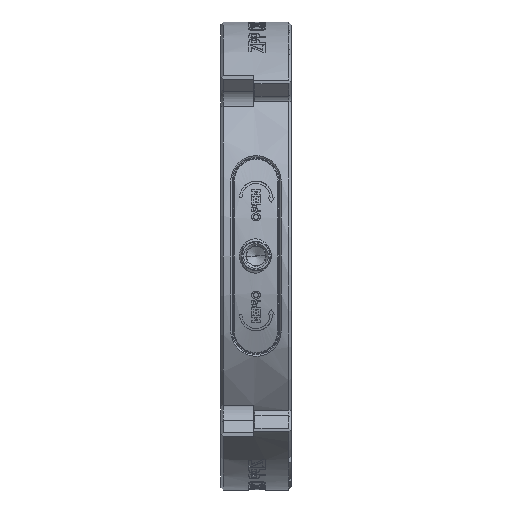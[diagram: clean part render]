
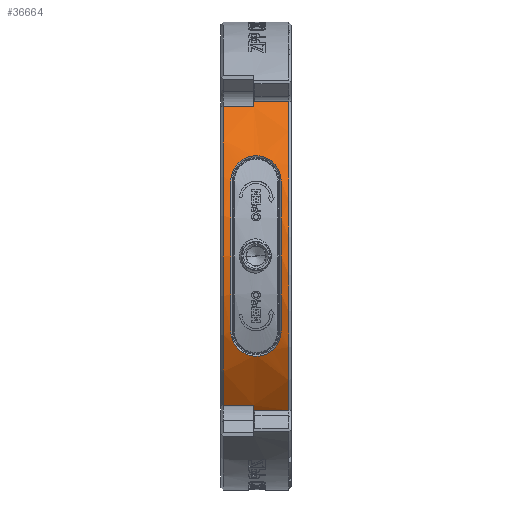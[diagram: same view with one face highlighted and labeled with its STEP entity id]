
A CAD part, left-side view. The second image highlights one B-rep face of the part: STEP entity #36664.
In plain terms, the highlighted cylindrical face has radius 100 mm (diameter 200 mm), a partial arc.
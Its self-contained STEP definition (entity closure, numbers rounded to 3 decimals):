
#606=CARTESIAN_POINT('',(-77.008,29.,-63.795));
#632=CARTESIAN_POINT('',(-77.008,29.,63.795));
#634=CARTESIAN_POINT('',(0.,29.,0.));
#635=DIRECTION('',(0.,-1.,0.));
#636=DIRECTION('',(-0.77,0.,0.638));
#637=AXIS2_PLACEMENT_3D('',#634,#635,#636);
#678=CARTESIAN_POINT('',(0.,16.,0.));
#679=DIRECTION('',(0.,-1.,0.));
#680=DIRECTION('',(-0.77,0.,-0.638));
#681=AXIS2_PLACEMENT_3D('',#678,#679,#680);
#3969=CARTESIAN_POINT('',(-75.134,1.,
-65.992));
#3971=CARTESIAN_POINT('',(0.,1.,0.));
#3972=DIRECTION('',(0.,1.,0.));
#3973=DIRECTION('',(-0.751,0.,-0.66));
#3974=AXIS2_PLACEMENT_3D('',#3971,#3972,#3973);
#4010=DIRECTION('',(0.,1.,0.));
#4011=VECTOR('',#4010,13.);
#4012=CARTESIAN_POINT('',(-77.008,16.,
-63.795));
#4013=LINE('',#4012,#4011);
#4014=DIRECTION('',(0.,-1.,0.));
#4015=VECTOR('',#4014,13.);
#4016=CARTESIAN_POINT('',(-77.008,29.,63.795));
#4017=LINE('',#4016,#4015);
#4018=DIRECTION('',(0.,-1.,0.));
#4019=VECTOR('',#4018,15.);
#4020=CARTESIAN_POINT('',(-75.134,16.,65.992));
#4021=LINE('',#4020,#4019);
#4022=DIRECTION('',(0.,1.,0.));
#4023=VECTOR('',#4022,15.);
#4024=CARTESIAN_POINT('',(-75.134,1.,
-65.992));
#4025=LINE('',#4024,#4023);
#4026=CARTESIAN_POINT('',(-94.729,4.251,32.037));
#4027=CARTESIAN_POINT('',(-94.438,4.251,32.899));
#4028=CARTESIAN_POINT('',(-93.834,4.439,34.611));
#4029=CARTESIAN_POINT('',(-92.776,5.494,37.353));
#4030=CARTESIAN_POINT('',(-91.815,7.193,39.642));
#4031=CARTESIAN_POINT('',(-91.053,9.349,41.354));
#4032=CARTESIAN_POINT('',(-90.548,11.766,42.442));
#4033=CARTESIAN_POINT('',(-90.334,14.061,42.892));
#4034=CARTESIAN_POINT('',(-90.376,16.592,42.803));
#4035=CARTESIAN_POINT('',(-90.631,18.751,42.264));
#4036=CARTESIAN_POINT('',(-91.191,21.11,41.048));
#4037=CARTESIAN_POINT('',(-91.922,23.009,39.392));
#4038=CARTESIAN_POINT('',(-92.82,24.552,37.238));
#4039=CARTESIAN_POINT('',(-93.819,25.543,34.65));
#4040=CARTESIAN_POINT('',(-94.429,25.749,32.924));
#4041=CARTESIAN_POINT('',(-94.729,25.749,32.037));
#4082=CARTESIAN_POINT('',(0.,16.,0.));
#4083=DIRECTION('',(0.,-1.,0.));
#4084=DIRECTION('',(-0.751,0.,0.66));
#4085=AXIS2_PLACEMENT_3D('',#4082,#4083,#4084);
#5241=CARTESIAN_POINT('',(0.,25.749,0.));
#5242=DIRECTION('',(0.,1.,0.));
#5243=DIRECTION('',(-0.947,0.,-0.32));
#5244=AXIS2_PLACEMENT_3D('',#5241,#5242,#5243);
#5312=CARTESIAN_POINT('',(0.,4.251,0.));
#5313=DIRECTION('',(0.,-1.,0.));
#5314=DIRECTION('',(-0.947,0.,0.32));
#5315=AXIS2_PLACEMENT_3D('',#5312,#5313,#5314);
#5317=CARTESIAN_POINT('',(-94.729,4.251,
-32.037));
#5318=CARTESIAN_POINT('',(-94.448,4.251,
-32.867));
#5319=CARTESIAN_POINT('',(-93.873,4.431,
-34.501));
#5320=CARTESIAN_POINT('',(-92.909,5.337,
-37.014));
#5321=CARTESIAN_POINT('',(-92.022,6.793,
-39.159));
#5322=CARTESIAN_POINT('',(-91.287,8.588,
-40.837));
#5323=CARTESIAN_POINT('',(-90.698,10.9,
-42.122));
#5324=CARTESIAN_POINT('',(-90.403,13.053,
-42.746));
#5325=CARTESIAN_POINT('',(-90.324,15.453,
-42.914));
#5326=CARTESIAN_POINT('',(-90.483,17.666,
-42.579));
#5327=CARTESIAN_POINT('',(-90.824,19.677,
-41.849));
#5328=CARTESIAN_POINT('',(-91.395,21.705,
-40.594));
#5329=CARTESIAN_POINT('',(-92.103,23.352,
-38.966));
#5330=CARTESIAN_POINT('',(-92.927,24.672,
-36.967));
#5331=CARTESIAN_POINT('',(-93.854,25.555,
-34.551));
#5332=CARTESIAN_POINT('',(-94.439,25.749,
-32.896));
#5333=CARTESIAN_POINT('',(-94.729,25.749,-32.037));
#28011=VERTEX_POINT('',#606);
#28014=VERTEX_POINT('',#632);
#28019=CARTESIAN_POINT('',(-77.008,16.,
-63.795));
#28020=VERTEX_POINT('',#28019);
#28035=CARTESIAN_POINT('',(-75.134,16.,
-65.992));
#28036=VERTEX_POINT('',#28035);
#31054=VERTEX_POINT('',#3969);
#31055=CARTESIAN_POINT('',(-75.134,1.,65.992));
#31056=VERTEX_POINT('',#31055);
#31060=CARTESIAN_POINT('',(-77.008,16.,
63.795));
#31061=VERTEX_POINT('',#31060);
#31062=CARTESIAN_POINT('',(-75.134,16.,
65.992));
#31063=VERTEX_POINT('',#31062);
#31064=CARTESIAN_POINT('',(-94.729,25.749,-32.037));
#31065=CARTESIAN_POINT('',(-94.729,25.749,32.037));
#31066=VERTEX_POINT('',#31064);
#31067=VERTEX_POINT('',#31065);
#31068=VERTEX_POINT('',#5317);
#31069=CARTESIAN_POINT('',(-94.729,4.251,
32.037));
#31070=VERTEX_POINT('',#31069);
#36636=CARTESIAN_POINT('',(0.,30.,0.));
#36637=DIRECTION('',(0.,1.,0.));
#36638=DIRECTION('',(0.,0.,-1.));
#36639=AXIS2_PLACEMENT_3D('',#36636,#36637,#36638);
#36640=CYLINDRICAL_SURFACE('',#36639,100.);
#36641=ORIENTED_EDGE('',*,*,#33570,.T.);
#36642=ORIENTED_EDGE('',*,*,#33555,.F.);
#36644=ORIENTED_EDGE('',*,*,#36643,.T.);
#36646=ORIENTED_EDGE('',*,*,#36645,.F.);
#36648=ORIENTED_EDGE('',*,*,#36647,.T.);
#36649=ORIENTED_EDGE('',*,*,#36585,.F.);
#36650=ORIENTED_EDGE('',*,*,#36605,.T.);
#36651=ORIENTED_EDGE('',*,*,#33609,.F.);
#36652=EDGE_LOOP('',(#36641,#36642,#36644,#36646,#36648,#36649,#36650,#36651));
#36653=FACE_OUTER_BOUND('',#36652,.F.);
#36655=ORIENTED_EDGE('',*,*,#36654,.F.);
#36657=ORIENTED_EDGE('',*,*,#36656,.F.);
#36659=ORIENTED_EDGE('',*,*,#36658,.F.);
#36661=ORIENTED_EDGE('',*,*,#36660,.T.);
#36662=EDGE_LOOP('',(#36655,#36657,#36659,#36661));
#36663=FACE_BOUND('',#36662,.F.);
#36664=ADVANCED_FACE('',(#36653,#36663),#36640,.T.);
#638=CIRCLE('',#637,100.);
#682=CIRCLE('',#681,100.);
#3975=CIRCLE('',#3974,100.);
#4042=B_SPLINE_CURVE_WITH_KNOTS('',3,(#4026,#4027,#4028,#4029,#4030,#4031,#4032,
#4033,#4034,#4035,#4036,#4037,#4038,#4039,#4040,#4041),.UNSPECIFIED.,.F.,.F.,(4,
1,1,1,1,1,1,1,1,1,1,1,1,4),(0.,0.077,0.154,
0.231,0.308,0.385,0.462,
0.538,0.615,0.692,0.769,
0.846,0.923,1.),.UNSPECIFIED.);
#4086=CIRCLE('',#4085,100.);
#5245=CIRCLE('',#5244,100.);
#5316=CIRCLE('',#5315,100.);
#5334=B_SPLINE_CURVE_WITH_KNOTS('',3,(#5317,#5318,#5319,#5320,#5321,#5322,#5323,
#5324,#5325,#5326,#5327,#5328,#5329,#5330,#5331,#5332,#5333),.UNSPECIFIED.,.F.,
.F.,(4,1,1,1,1,1,1,1,1,1,1,1,1,1,4),(0.,0.071,0.143,
0.214,0.286,0.357,0.429,0.5,
0.571,0.643,0.714,0.786,
0.857,0.929,1.),.UNSPECIFIED.);
#33555=EDGE_CURVE('',#28014,#28011,#638,.T.);
#33570=EDGE_CURVE('',#28020,#28011,#4013,.T.);
#33609=EDGE_CURVE('',#28020,#28036,#682,.T.);
#36585=EDGE_CURVE('',#31054,#31056,#3975,.T.);
#36605=EDGE_CURVE('',#31054,#28036,#4025,.T.);
#36643=EDGE_CURVE('',#28014,#31061,#4017,.T.);
#36645=EDGE_CURVE('',#31063,#31061,#4086,.T.);
#36647=EDGE_CURVE('',#31063,#31056,#4021,.T.);
#36654=EDGE_CURVE('',#31066,#31067,#5245,.T.);
#36656=EDGE_CURVE('',#31068,#31066,#5334,.T.);
#36658=EDGE_CURVE('',#31070,#31068,#5316,.T.);
#36660=EDGE_CURVE('',#31070,#31067,#4042,.T.);
